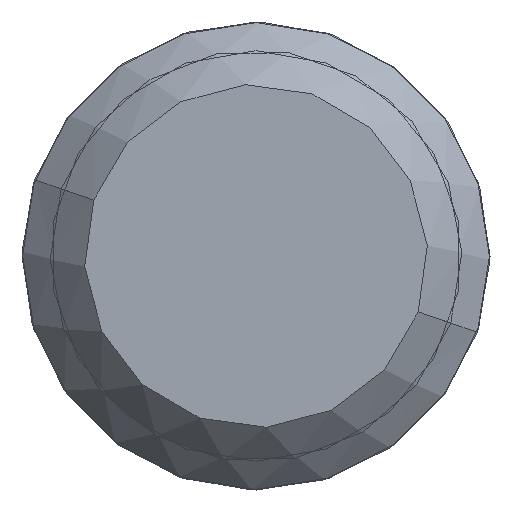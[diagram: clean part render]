
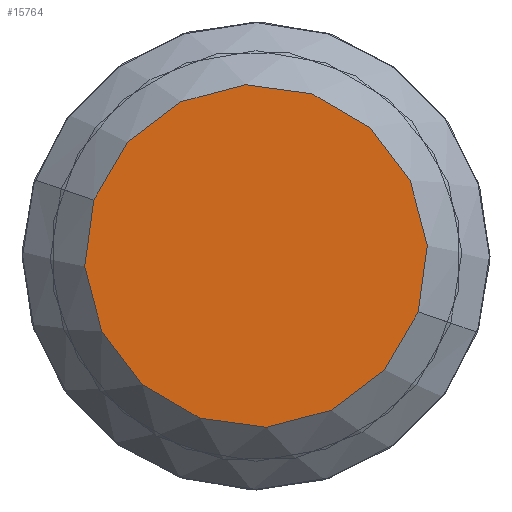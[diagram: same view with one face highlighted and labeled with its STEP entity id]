
A CAD part, front view. The second image highlights one B-rep face of the part: STEP entity #15764.
In plain terms, the highlighted planar face has unit normal (0, -1, 0) as drawn and (0, 1, 0) by its records, which use the part's own axes.
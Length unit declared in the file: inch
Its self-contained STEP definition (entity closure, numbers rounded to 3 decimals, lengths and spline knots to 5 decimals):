
#163 = AXIS2_PLACEMENT_3D ( 'NONE', #6512, #12725, #11436 ) ;
#495 = CARTESIAN_POINT ( 'NONE',  ( 0., 0.6875, 0. ) ) ;
#1518 = EDGE_LOOP ( 'NONE', ( #7567, #10154 ) ) ;
#2057 = EDGE_CURVE ( 'NONE', #5056, #19723, #7653, .T. ) ;
#3146 = EDGE_CURVE ( 'NONE', #19723, #5056, #7675, .T. ) ;
#5056 = VERTEX_POINT ( 'NONE', #11664 ) ;
#5531 = DIRECTION ( 'NONE',  ( 0., 1., 0. ) ) ;
#6512 = CARTESIAN_POINT ( 'NONE',  ( 0., 0.6875, 0. ) ) ;
#7567 = ORIENTED_EDGE ( 'NONE', *, *, #3146, .T. ) ;
#7653 = CIRCLE ( 'NONE', #11404, 0.1375 ) ;
#7675 = CIRCLE ( 'NONE', #163, 0.1375 ) ;
#8020 = DIRECTION ( 'NONE',  ( 0., 0., 1. ) ) ;
#8949 = DIRECTION ( 'NONE',  ( 0., 0., 1. ) ) ;
#10154 = ORIENTED_EDGE ( 'NONE', *, *, #2057, .T. ) ;
#10967 = AXIS2_PLACEMENT_3D ( 'NONE', #11955, #5531, #8949 ) ;
#11404 = AXIS2_PLACEMENT_3D ( 'NONE', #495, #17876, #8020 ) ;
#11436 = DIRECTION ( 'NONE',  ( 0., 0., 1. ) ) ;
#11664 = CARTESIAN_POINT ( 'NONE',  ( 0., 0.6875, 0.1375 ) ) ;
#11955 = CARTESIAN_POINT ( 'NONE',  ( 0., 0.6875, 0. ) ) ;
#12725 = DIRECTION ( 'NONE',  ( 0., 1., 0. ) ) ;
#15764 = ADVANCED_FACE ( 'NONE', ( #18503 ), #20001, .T. ) ;
#17876 = DIRECTION ( 'NONE',  ( 0., 1., 0. ) ) ;
#18503 = FACE_OUTER_BOUND ( 'NONE', #1518, .T. ) ;
#19723 = VERTEX_POINT ( 'NONE', #19978 ) ;
#19978 = CARTESIAN_POINT ( 'NONE',  ( 0., 0.6875, -0.1375 ) ) ;
#20001 = PLANE ( 'NONE',  #10967 ) ;
